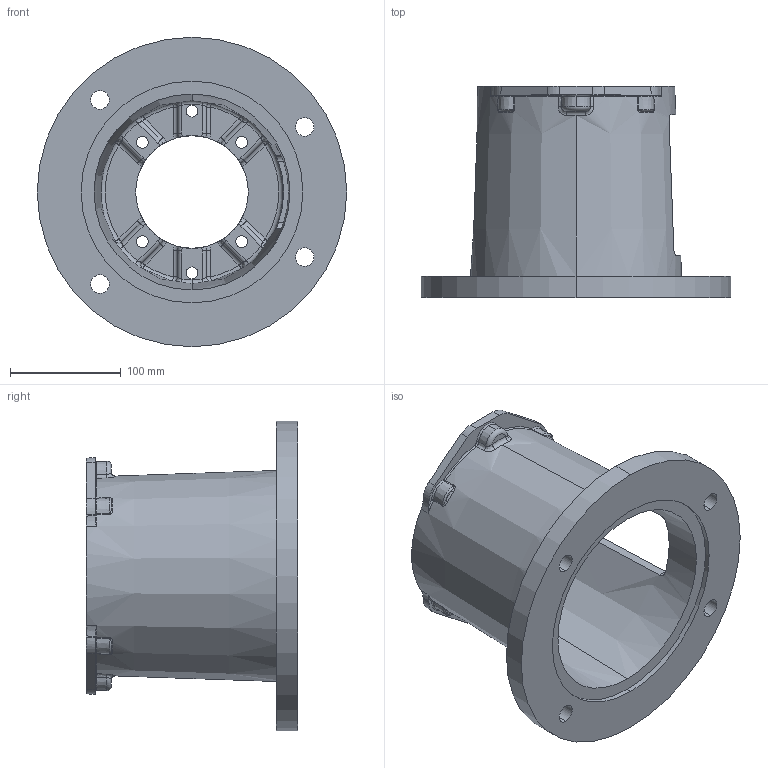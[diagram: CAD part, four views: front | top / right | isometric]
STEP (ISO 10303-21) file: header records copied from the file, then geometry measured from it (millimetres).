
FILE_DESCRIPTION (( 'STEP AP203' ), '1' );
FILE_NAME ('E787752B.STEP', '2014-11-04T15:41:02', ( '' ), ( '' ), 'SwSTEP 2.0', 'SolidWorks 2014', '' );
FILE_SCHEMA (( 'CONFIG_CONTROL_DESIGN' ));
Length unit declared in the file: inch
Products named in the file (1): E787752B
Bounding box: 279.4 x 190.5 x 279.4 mm (x, y, z)
Volume: 1502512.7 mm3; surface area: 319995.3 mm2
Topology: 1 solids, 1 shells, 354 faces, 902 edges, 540 vertices
Faces by surface type: torus 106, cylinder 86, bspline 64, plane 50, sphere 24, cone 24
Entity records: 14337 total; most frequent: CARTESIAN_POINT 6085, ORIENTED_EDGE 1780, DIRECTION 1734, EDGE_CURVE 890, AXIS2_PLACEMENT_3D 787, VERTEX_POINT 540, CIRCLE 496, EDGE_LOOP 380
